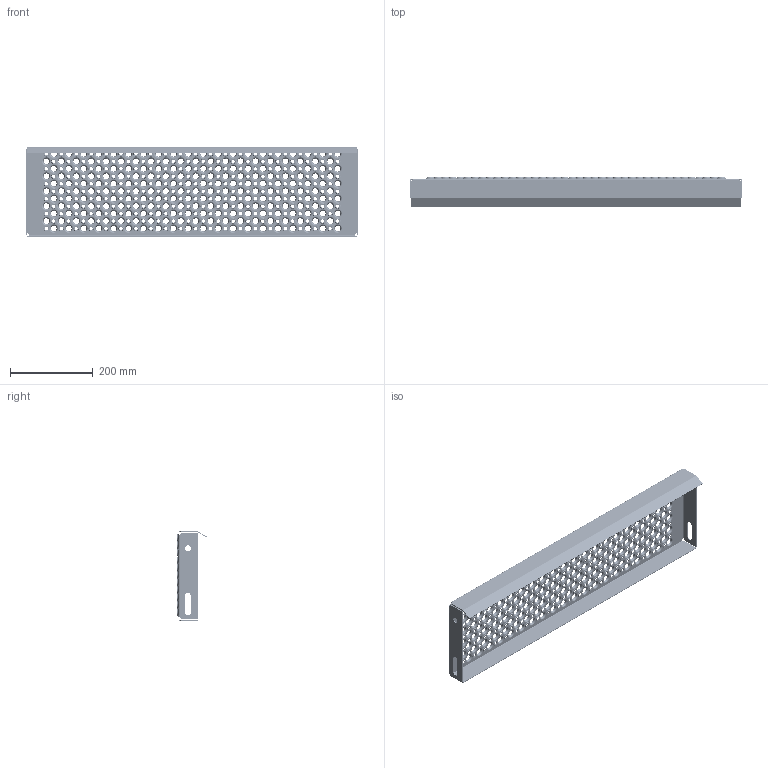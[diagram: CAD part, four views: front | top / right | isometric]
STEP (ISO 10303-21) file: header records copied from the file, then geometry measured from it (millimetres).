
FILE_DESCRIPTION (( 'STEP AP203' ), '1' );
FILE_NAME ('80242108G_Lejdertrin_215x800x45_mm_.STEP', '2015-01-14T06:04:01', ( '' ), ( '' ), 'SwSTEP 2.0', 'SolidWorks 2013', '' );
FILE_SCHEMA (( 'CONFIG_CONTROL_DESIGN' ));
Length unit declared in the file: millimetre
Products named in the file (1): 80242108G_Lejdertrin_215x800x45_mm_
Bounding box: 800 x 71.67 x 215 mm (x, y, z)
Volume: 520562.2 mm3; surface area: 558054.9 mm2
Topology: 1 solids, 1 shells, 2276 faces, 6342 edges, 4068 vertices
Faces by surface type: cone 1320, torus 880, cylinder 36, plane 32, bspline 8
Full cylindrical faces by diameter (mm): 14 x2
Entity records: 52817 total; most frequent: DIRECTION 10022, CARTESIAN_POINT 8345, ORIENTED_EDGE 5640, EDGE_LOOP 5366, AXIS2_PLACEMENT_3D 4965, FACE_OUTER_BOUND 3158, EDGE_CURVE 2820, VERTEX_POINT 2748
